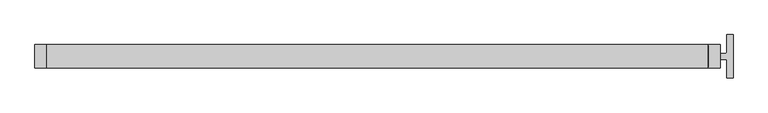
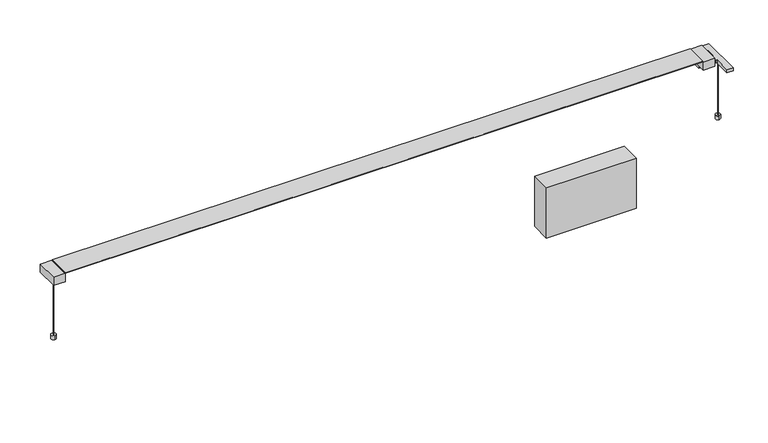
"""IFC4 building model written with IfcOpenShell, lengths in millimetres: light fixture geometry, Fabbian.Pivot F39 (F39 A01A 01,F39 A01A 21,F39 A01A 76,F39 A02A 01,F39 A02A 21,F39 A02A 76) : F39 A01A 01."""

from ifc_helpers import new_model, si_unit, point, frame, frame_2d, origin, origin_with_axes, place, context, project, spatial, polyline, circle_curve, trimmed, segment, composite_curve, outline, extrude, source, transform, mapped, element, save


def light_fixture_072f2477(model_context):
    return source(origin(), model_context, "Body", "SweptSolid", [
        extrude(outline(composite_curve([segment(trimmed(circle_curve(frame_2d((833.8362553, 0.0)), 0.4949808), [point((834.3312361, 0.0))], [point((833.3412745, 0.0))], False, "CARTESIAN"), True, "CONTINUOUS"), segment(trimmed(circle_curve(frame_2d((833.8362553, 0.0)), 0.4949808), [point((833.3412745, 0.0))], [point((834.3312361, 0.0))], False, "CARTESIAN"), True, "CONTINUOUS")], self_intersect=False)), origin_with_axes(), (0.0, 0.0, 1.0), 151.6242394),
        extrude(outline(polyline([(619.1350388, -24.9666442), (399.1348055, -24.9666442), (399.1348055, 25.0334567), (619.1350388, 25.0334567), (619.1350388, -24.9666442)])), frame((0.0, 0.0, -142.875), z_axis=(0.0, 0.0, 1.0), x_axis=(1.0, 0.0, 0.0)), (0.0, 0.0, 1.0), 130.175),
        extrude(outline(composite_curve([segment(trimmed(circle_curve(frame_2d((-794.2559882, 0.0)), 0.4949808), [point((-794.750969, 0.0))], [point((-793.7610074, 0.0))], False, "CARTESIAN"), True, "CONTINUOUS"), segment(trimmed(circle_curve(frame_2d((-794.2559882, 0.0)), 0.4949808), [point((-793.7610074, 0.0))], [point((-794.750969, 0.0))], False, "CARTESIAN"), True, "CONTINUOUS")], self_intersect=False)), origin_with_axes(), (0.0, 0.0, 1.0), 159.6242394),
        extrude(outline(polyline([(0.4107254, 159.893756), (0.4107254, 160.681594), (-0.4107259, 160.681594), (-0.4107259, 159.893756), (-25.5497693, 181.0787506), (26.3879175, 181.0787506), (0.4107254, 159.893756)])), frame((-782.3132834, 0.0, 0.0), z_axis=(1.0, 0.0, 0.0), x_axis=(0.0, 1.0, 0.0)), (0.0, 0.0, 1.0), 1564.6265668),
        extrude(outline(polyline([(-782.3132834, -27.7285043), (-810.5140956, -27.7285043), (-810.5140956, 27.7953166), (-782.3132834, 27.7953166), (-782.3132834, -27.7285043)])), frame((0.0, 0.0, 159.6242394), z_axis=(0.0, 0.0, 1.0), x_axis=(1.0, 0.0, 0.0)), (0.0, 0.0, 1.0), 20.8761838),
        extrude(outline(polyline([(782.3132834, -27.7285042), (782.3132834, 27.7953167), (810.5140956, 27.7953167), (810.5140956, -27.7285042), (782.3132834, -27.7285042)])), frame((0.0, 0.0, 159.6242394), z_axis=(0.0, 0.0, 1.0), x_axis=(1.0, 0.0, 0.0)), (0.0, 0.0, 1.0), 20.8761838),
        extrude(outline(polyline([(0.0, 0.8214513), (1564.6265668, 0.8214513), (1564.6265668, 0.0), (0.0, 0.0), (0.0, 0.8214513)])), frame((-782.3132834, -0.4107259, 159.893756), z_axis=(-5.7155291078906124e-11, 0.0, 1.0), x_axis=(1.0, 0.0, 5.7155291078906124e-11)), (0.0, 0.0, 1.0), 0.787838),
        extrude(outline(polyline([(781.7488887, 27.7780006), (781.7488887, -27.7779986), (-782.3132834, -27.7779986), (-782.3132834, 27.7780006), (781.7488887, 27.7780006)])), frame((0.0, 0.0, 181.0787506), z_axis=(0.0, 0.0, 1.0), x_axis=(1.0, 0.0, 0.0)), (0.0, 0.0, 1.0), 1.1514277),
        extrude(outline(composite_curve([segment(trimmed(circle_curve(frame_2d((833.836284, 0.4556113)), 5.8155806), [point((834.6639767, -5.3007681))], [point((833.0085914, 6.2119906))], False, "CARTESIAN"), True, "CONTINUOUS"), segment(trimmed(circle_curve(frame_2d((833.836284, 0.4556113)), 5.8155806), [point((833.0085914, 6.2119906))], [point((834.6639767, -5.3007681))], False, "CARTESIAN"), True, "CONTINUOUS")], self_intersect=False)), origin_with_axes(), (0.0, 0.0, 1.0), 9.6582083),
        extrude(outline(composite_curve([segment(trimmed(circle_curve(frame_2d((-794.2560169, 0.4556113)), 5.8155806), [point((-795.0837096, -5.3007681))], [point((-793.4283243, 6.2119906))], False, "CARTESIAN"), True, "CONTINUOUS"), segment(trimmed(circle_curve(frame_2d((-794.2560169, 0.4556113)), 5.8155806), [point((-793.4283243, 6.2119906))], [point((-795.0837096, -5.3007681))], False, "CARTESIAN"), True, "CONTINUOUS")], self_intersect=False)), origin_with_axes(), (0.0, 0.0, 1.0), 9.6582083),
        extrude(outline(composite_curve([segment(polyline([(826.3132834, 51.5), (841.3132834, 51.5), (841.3132834, -51.5), (826.3132834, -51.5), (826.3132834, -9.5)]), True, "CONTINUOUS"), segment(trimmed(circle_curve(frame_2d((824.3132834, -9.5)), 2.0), [point((826.3132834, -9.5))], [point((824.3132834, -7.5))], True, "CARTESIAN"), True, "CONTINUOUS"), segment(polyline([(824.3132834, -7.5), (782.3132834, -7.5), (782.3132834, 7.5), (824.3132834, 7.5)]), True, "CONTINUOUS"), segment(trimmed(circle_curve(frame_2d((824.3132834, 9.5)), 2.0), [point((824.3132834, 7.5))], [point((826.3132834, 9.5))], True, "CARTESIAN"), True, "CONTINUOUS"), segment(polyline([(826.3132834, 9.5), (826.3132834, 51.5)]), True, "CONTINUOUS")], self_intersect=False)), frame((0.0, 0.0, 151.6242394), z_axis=(0.0, 0.0, 1.0), x_axis=(1.0, 0.0, 0.0)), (0.0, 0.0, 1.0), 8.0),
    ])


if __name__ == "__main__":
    model = new_model("IFC4")
    model_context = context("Model", 3, world=origin())
    ifc_project = project(units=[si_unit("LENGTHUNIT", "METRE", prefix="MILLI")], contexts=[model_context])
    site = spatial("IfcSite", under=ifc_project)
    building = spatial("IfcBuilding", under=site)
    placement = place(None, origin())
    light_fixture_shape = light_fixture_072f2477(model_context)
    element("IfcLightFixture", 1, ObjectType="Fabbian.Pivot F39 (F39 A01A 01,F39 A01A 21,F39 A01A 76,F39 A02A 01,F39 A02A 21,F39 A02A 76) : F39 A01A 01", at=placement, inside=building, context=model_context, shape_type="MappedRepresentation", body=[
        mapped(light_fixture_shape, transform((0.0, 0.0, 0.0), x_axis=(1.0, 0.0, 0.0), y_axis=(0.0, 1.0, 0.0), z_axis=(0.0, 0.0, 1.0))),
    ])
    save(model, "model.ifc")
